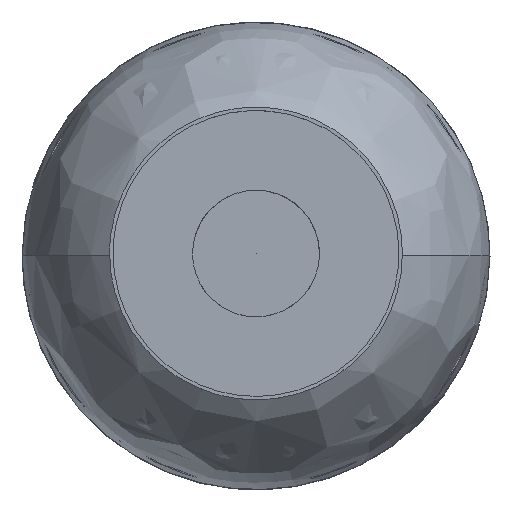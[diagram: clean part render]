
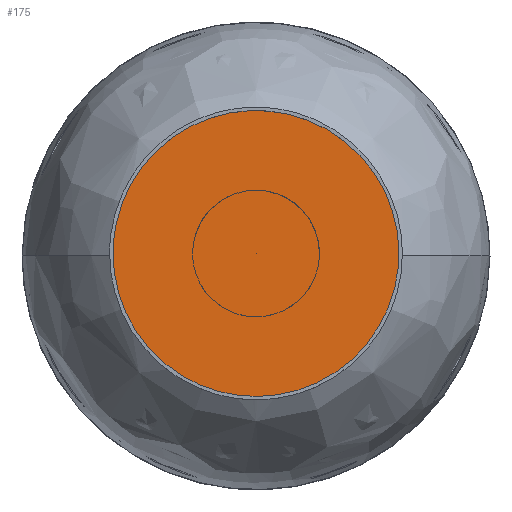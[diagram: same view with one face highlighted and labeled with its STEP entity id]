
A CAD part, top view. The second image highlights one B-rep face of the part: STEP entity #175.
In plain terms, the highlighted free-form (B-spline) face has degree [2, 1] with [9, 2] control points.
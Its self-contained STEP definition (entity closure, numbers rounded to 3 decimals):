
#175=ADVANCED_FACE('',(#437),#3420,.T.);
#437=FACE_OUTER_BOUND('',#704,.T.);
#704=EDGE_LOOP('',(#1167,#1168,#1169));
#1167=ORIENTED_EDGE('',*,*,#2060,.T.);
#1168=ORIENTED_EDGE('',*,*,#2051,.T.);
#1169=ORIENTED_EDGE('',*,*,#2051,.F.);
#2051=EDGE_CURVE('',#3005,#3004,#2478,.T.);
#2060=EDGE_CURVE('',#3005,#3005,#2689,.T.);
#2478=B_SPLINE_CURVE_WITH_KNOTS('',1,(#5832,#5833),.UNSPECIFIED.,.F.,.F.,
(2,2),(82.621,144.621),.UNSPECIFIED.);
#2689=(
BOUNDED_CURVE()
B_SPLINE_CURVE(2,(#5878,#5879,#5880,#5881,#5882,#5883,#5884,#5885,#5886),
 .UNSPECIFIED.,.T.,.F.)
B_SPLINE_CURVE_WITH_KNOTS((3,2,2,2,3),(0.,99.746,199.491,
299.237,398.982),.UNSPECIFIED.)
CURVE()
GEOMETRIC_REPRESENTATION_ITEM()
RATIONAL_B_SPLINE_CURVE((1.,0.707,1.,0.707,1.,0.707,
1.,0.707,1.))
REPRESENTATION_ITEM('')
);
#3004=VERTEX_POINT('',#5824);
#3005=VERTEX_POINT('',#5825);
#3420=(
BOUNDED_SURFACE()
B_SPLINE_SURFACE(2,1,((#5749,#5750),(#5751,#5752),(#5753,#5754),(#5755,
#5756),(#5757,#5758),(#5759,#5760),(#5761,#5762),(#5763,#5764),(#5765,#5766)),
 .UNSPECIFIED.,.T.,.F.,.F.)
B_SPLINE_SURFACE_WITH_KNOTS((3,2,2,2,3),(2,2),(0.,99.746,199.491,
299.237,398.982),(82.621,144.621),
 .UNSPECIFIED.)
GEOMETRIC_REPRESENTATION_ITEM()
RATIONAL_B_SPLINE_SURFACE(((1.,1.),(0.707,0.707),
(1.,1.),(0.707,0.707),(1.,1.),(0.707,
0.707),(1.,1.),(0.707,0.707),(1.,1.)))
REPRESENTATION_ITEM('')
SURFACE()
);
#5749=CARTESIAN_POINT('',(-62.,0.,-8.5));
#5750=CARTESIAN_POINT('',(0.,0.,-8.5));
#5751=CARTESIAN_POINT('',(-62.,-62.,-8.5));
#5752=CARTESIAN_POINT('',(0.,0.,-8.5));
#5753=CARTESIAN_POINT('',(0.,-62.,-8.5));
#5754=CARTESIAN_POINT('',(0.,0.,-8.5));
#5755=CARTESIAN_POINT('',(62.,-62.,-8.5));
#5756=CARTESIAN_POINT('',(0.,0.,-8.5));
#5757=CARTESIAN_POINT('',(62.,0.,-8.5));
#5758=CARTESIAN_POINT('',(0.,0.,-8.5));
#5759=CARTESIAN_POINT('',(62.,62.,-8.5));
#5760=CARTESIAN_POINT('',(0.,0.,-8.5));
#5761=CARTESIAN_POINT('',(0.,62.,-8.5));
#5762=CARTESIAN_POINT('',(0.,0.,-8.5));
#5763=CARTESIAN_POINT('',(-62.,62.,-8.5));
#5764=CARTESIAN_POINT('',(0.,0.,-8.5));
#5765=CARTESIAN_POINT('',(-62.,0.,-8.5));
#5766=CARTESIAN_POINT('',(0.,0.,-8.5));
#5824=CARTESIAN_POINT('',(0.,0.,-8.5));
#5825=CARTESIAN_POINT('',(-62.,0.,-8.5));
#5832=CARTESIAN_POINT('',(-62.,0.,-8.5));
#5833=CARTESIAN_POINT('',(0.,0.,-8.5));
#5878=CARTESIAN_POINT('',(-62.,0.,-8.5));
#5879=CARTESIAN_POINT('',(-62.,-62.,-8.5));
#5880=CARTESIAN_POINT('',(0.,-62.,-8.5));
#5881=CARTESIAN_POINT('',(62.,-62.,-8.5));
#5882=CARTESIAN_POINT('',(62.,0.,-8.5));
#5883=CARTESIAN_POINT('',(62.,62.,-8.5));
#5884=CARTESIAN_POINT('',(0.,62.,-8.5));
#5885=CARTESIAN_POINT('',(-62.,62.,-8.5));
#5886=CARTESIAN_POINT('',(-62.,0.,-8.5));
